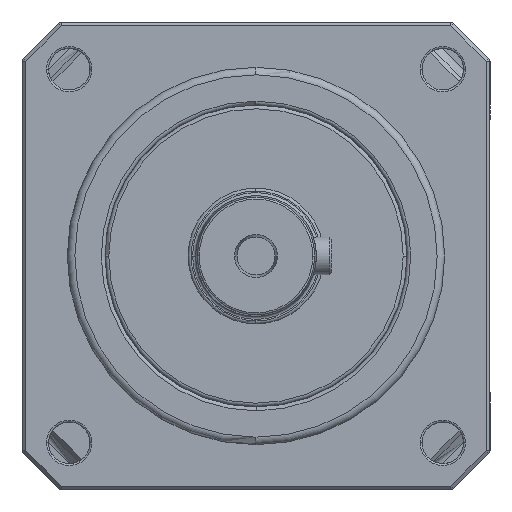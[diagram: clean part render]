
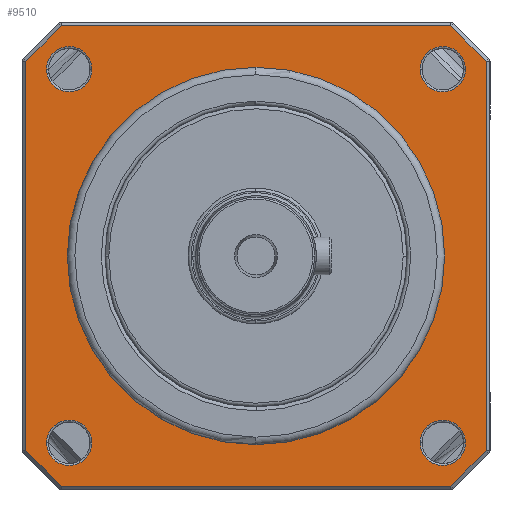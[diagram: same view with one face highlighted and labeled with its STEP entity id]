
A CAD part, left-side view. The second image highlights one B-rep face of the part: STEP entity #9510.
In plain terms, the highlighted planar face has unit normal (-1, 0, 0).
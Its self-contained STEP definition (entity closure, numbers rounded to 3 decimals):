
#7279=DIRECTION('',(0.,-0.707,-0.707));
#7280=VECTOR('',#7279,6.657);
#7281=CARTESIAN_POINT('',(-8.,-25.793,30.5));
#7282=LINE('',#7281,#7280);
#7283=DIRECTION('',(0.,0.,-1.));
#7284=VECTOR('',#7283,51.586);
#7285=CARTESIAN_POINT('',(-8.,-30.5,25.793));
#7286=LINE('',#7285,#7284);
#7287=DIRECTION('',(0.,0.707,-0.707));
#7288=VECTOR('',#7287,6.657);
#7289=CARTESIAN_POINT('',(-8.,-30.5,-25.793));
#7290=LINE('',#7289,#7288);
#7291=DIRECTION('',(0.,1.,0.));
#7292=VECTOR('',#7291,51.586);
#7293=CARTESIAN_POINT('',(-8.,-25.793,-30.5));
#7294=LINE('',#7293,#7292);
#7295=DIRECTION('',(0.,0.707,0.707));
#7296=VECTOR('',#7295,6.657);
#7297=CARTESIAN_POINT('',(-8.,25.793,-30.5));
#7298=LINE('',#7297,#7296);
#7299=DIRECTION('',(0.,0.,1.));
#7300=VECTOR('',#7299,51.586);
#7301=CARTESIAN_POINT('',(-8.,30.5,-25.793));
#7302=LINE('',#7301,#7300);
#7303=DIRECTION('',(0.,-0.707,0.707));
#7304=VECTOR('',#7303,6.657);
#7305=CARTESIAN_POINT('',(-8.,30.5,25.793));
#7306=LINE('',#7305,#7304);
#7307=DIRECTION('',(0.,-1.,0.));
#7308=VECTOR('',#7307,51.586);
#7309=CARTESIAN_POINT('',(-8.,25.793,30.5));
#7310=LINE('',#7309,#7308);
#7311=CARTESIAN_POINT('',(-8.,0.,0.));
#7312=DIRECTION('',(-1.,0.,0.));
#7313=DIRECTION('',(0.,0.,1.));
#7314=AXIS2_PLACEMENT_3D('',#7311,#7312,#7313);
#7316=CARTESIAN_POINT('',(-8.,0.,0.));
#7317=DIRECTION('',(-1.,0.,0.));
#7318=DIRECTION('',(0.,0.,-1.));
#7319=AXIS2_PLACEMENT_3D('',#7316,#7317,#7318);
#7321=CARTESIAN_POINT('',(-8.,24.749,-24.749));
#7322=DIRECTION('',(-1.,0.,0.));
#7323=DIRECTION('',(0.,-1.,0.));
#7324=AXIS2_PLACEMENT_3D('',#7321,#7322,#7323);
#7326=CARTESIAN_POINT('',(-8.,24.749,-24.749));
#7327=DIRECTION('',(-1.,0.,0.));
#7328=DIRECTION('',(0.,-0.996,0.085));
#7329=AXIS2_PLACEMENT_3D('',#7326,#7327,#7328);
#7331=CARTESIAN_POINT('',(-8.,24.749,-24.749));
#7332=DIRECTION('',(-1.,0.,0.));
#7333=DIRECTION('',(0.,1.,0.));
#7334=AXIS2_PLACEMENT_3D('',#7331,#7332,#7333);
#7336=CARTESIAN_POINT('',(-8.,24.749,-24.749));
#7337=DIRECTION('',(-1.,0.,0.));
#7338=DIRECTION('',(0.,0.996,-0.085));
#7339=AXIS2_PLACEMENT_3D('',#7336,#7337,#7338);
#7341=CARTESIAN_POINT('',(-8.,24.749,24.749));
#7342=DIRECTION('',(-1.,0.,0.));
#7343=DIRECTION('',(0.,1.,0.));
#7344=AXIS2_PLACEMENT_3D('',#7341,#7342,#7343);
#7346=CARTESIAN_POINT('',(-8.,24.749,24.749));
#7347=DIRECTION('',(-1.,0.,0.));
#7348=DIRECTION('',(0.,0.996,-0.085));
#7349=AXIS2_PLACEMENT_3D('',#7346,#7347,#7348);
#7351=CARTESIAN_POINT('',(-8.,24.749,24.749));
#7352=DIRECTION('',(-1.,0.,0.));
#7353=DIRECTION('',(0.,-1.,0.));
#7354=AXIS2_PLACEMENT_3D('',#7351,#7352,#7353);
#7356=CARTESIAN_POINT('',(-8.,24.749,24.749));
#7357=DIRECTION('',(-1.,0.,0.));
#7358=DIRECTION('',(0.,-0.996,0.085));
#7359=AXIS2_PLACEMENT_3D('',#7356,#7357,#7358);
#7361=CARTESIAN_POINT('',(-8.,-24.749,24.749));
#7362=DIRECTION('',(-1.,0.,0.));
#7363=DIRECTION('',(0.,1.,0.));
#7364=AXIS2_PLACEMENT_3D('',#7361,#7362,#7363);
#7366=CARTESIAN_POINT('',(-8.,-24.749,24.749));
#7367=DIRECTION('',(-1.,0.,0.));
#7368=DIRECTION('',(0.,0.996,-0.085));
#7369=AXIS2_PLACEMENT_3D('',#7366,#7367,#7368);
#7371=CARTESIAN_POINT('',(-8.,-24.749,24.749));
#7372=DIRECTION('',(-1.,0.,0.));
#7373=DIRECTION('',(0.,-1.,0.));
#7374=AXIS2_PLACEMENT_3D('',#7371,#7372,#7373);
#7376=CARTESIAN_POINT('',(-8.,-24.749,24.749));
#7377=DIRECTION('',(-1.,0.,0.));
#7378=DIRECTION('',(0.,-0.996,0.085));
#7379=AXIS2_PLACEMENT_3D('',#7376,#7377,#7378);
#7381=CARTESIAN_POINT('',(-8.,-24.749,-24.749));
#7382=DIRECTION('',(-1.,0.,0.));
#7383=DIRECTION('',(0.,1.,0.));
#7384=AXIS2_PLACEMENT_3D('',#7381,#7382,#7383);
#7386=CARTESIAN_POINT('',(-8.,-24.749,-24.749));
#7387=DIRECTION('',(-1.,0.,0.));
#7388=DIRECTION('',(0.,0.996,-0.085));
#7389=AXIS2_PLACEMENT_3D('',#7386,#7387,#7388);
#7391=CARTESIAN_POINT('',(-8.,-24.749,-24.749));
#7392=DIRECTION('',(-1.,0.,0.));
#7393=DIRECTION('',(0.,-1.,0.));
#7394=AXIS2_PLACEMENT_3D('',#7391,#7392,#7393);
#7396=CARTESIAN_POINT('',(-8.,-24.749,-24.749));
#7397=DIRECTION('',(-1.,0.,0.));
#7398=DIRECTION('',(0.,-0.996,0.085));
#7399=AXIS2_PLACEMENT_3D('',#7396,#7397,#7398);
#8195=CARTESIAN_POINT('',(-8.,0.,25.));
#8196=VERTEX_POINT('',#8195);
#8197=CARTESIAN_POINT('',(-8.,0.,-25.));
#8198=VERTEX_POINT('',#8197);
#8199=CARTESIAN_POINT('',(-8.,-25.793,30.5));
#8200=CARTESIAN_POINT('',(-8.,-30.5,25.793));
#8201=VERTEX_POINT('',#8199);
#8202=VERTEX_POINT('',#8200);
#8203=CARTESIAN_POINT('',(-8.,-30.5,-25.793));
#8204=VERTEX_POINT('',#8203);
#8205=CARTESIAN_POINT('',(-8.,-25.793,-30.5));
#8206=VERTEX_POINT('',#8205);
#8207=CARTESIAN_POINT('',(-8.,25.793,-30.5));
#8208=VERTEX_POINT('',#8207);
#8209=CARTESIAN_POINT('',(-8.,30.5,-25.793));
#8210=VERTEX_POINT('',#8209);
#8211=CARTESIAN_POINT('',(-8.,30.5,25.793));
#8212=VERTEX_POINT('',#8211);
#8213=CARTESIAN_POINT('',(-8.,25.793,30.5));
#8214=VERTEX_POINT('',#8213);
#8215=CARTESIAN_POINT('',(-8.,21.76,-24.494));
#8216=CARTESIAN_POINT('',(-8.,27.749,-24.749));
#8217=VERTEX_POINT('',#8215);
#8218=VERTEX_POINT('',#8216);
#8219=CARTESIAN_POINT('',(-8.,21.749,-24.749));
#8220=VERTEX_POINT('',#8219);
#8221=CARTESIAN_POINT('',(-8.,27.738,-25.003));
#8222=VERTEX_POINT('',#8221);
#8223=CARTESIAN_POINT('',(-8.,27.738,24.494));
#8224=CARTESIAN_POINT('',(-8.,21.749,24.749));
#8225=VERTEX_POINT('',#8223);
#8226=VERTEX_POINT('',#8224);
#8227=CARTESIAN_POINT('',(-8.,27.749,24.749));
#8228=VERTEX_POINT('',#8227);
#8229=CARTESIAN_POINT('',(-8.,21.76,25.003));
#8230=VERTEX_POINT('',#8229);
#8231=CARTESIAN_POINT('',(-8.,-21.76,24.494));
#8232=CARTESIAN_POINT('',(-8.,-27.749,24.749));
#8233=VERTEX_POINT('',#8231);
#8234=VERTEX_POINT('',#8232);
#8235=CARTESIAN_POINT('',(-8.,-21.749,24.749));
#8236=VERTEX_POINT('',#8235);
#8237=CARTESIAN_POINT('',(-8.,-27.738,25.003));
#8238=VERTEX_POINT('',#8237);
#8239=CARTESIAN_POINT('',(-8.,-21.76,-25.003));
#8240=CARTESIAN_POINT('',(-8.,-27.749,-24.749));
#8241=VERTEX_POINT('',#8239);
#8242=VERTEX_POINT('',#8240);
#8243=CARTESIAN_POINT('',(-8.,-21.749,-24.749));
#8244=VERTEX_POINT('',#8243);
#8245=CARTESIAN_POINT('',(-8.,-27.738,-24.494));
#8246=VERTEX_POINT('',#8245);
#9442=CARTESIAN_POINT('',(-8.,0.,0.));
#9443=DIRECTION('',(1.,0.,0.));
#9444=DIRECTION('',(0.,1.,0.));
#9445=AXIS2_PLACEMENT_3D('',#9442,#9443,#9444);
#9446=PLANE('',#9445);
#9448=ORIENTED_EDGE('',*,*,#9447,.T.);
#9450=ORIENTED_EDGE('',*,*,#9449,.T.);
#9452=ORIENTED_EDGE('',*,*,#9451,.T.);
#9454=ORIENTED_EDGE('',*,*,#9453,.T.);
#9456=ORIENTED_EDGE('',*,*,#9455,.T.);
#9458=ORIENTED_EDGE('',*,*,#9457,.T.);
#9459=ORIENTED_EDGE('',*,*,#9432,.T.);
#9461=ORIENTED_EDGE('',*,*,#9460,.T.);
#9462=EDGE_LOOP('',(#9448,#9450,#9452,#9454,#9456,#9458,#9459,#9461));
#9463=FACE_OUTER_BOUND('',#9462,.F.);
#9465=ORIENTED_EDGE('',*,*,#9464,.T.);
#9467=ORIENTED_EDGE('',*,*,#9466,.T.);
#9468=EDGE_LOOP('',(#9465,#9467));
#9469=FACE_BOUND('',#9468,.F.);
#9471=ORIENTED_EDGE('',*,*,#9470,.T.);
#9473=ORIENTED_EDGE('',*,*,#9472,.T.);
#9475=ORIENTED_EDGE('',*,*,#9474,.T.);
#9477=ORIENTED_EDGE('',*,*,#9476,.T.);
#9478=EDGE_LOOP('',(#9471,#9473,#9475,#9477));
#9479=FACE_BOUND('',#9478,.F.);
#9481=ORIENTED_EDGE('',*,*,#9480,.T.);
#9483=ORIENTED_EDGE('',*,*,#9482,.T.);
#9485=ORIENTED_EDGE('',*,*,#9484,.T.);
#9487=ORIENTED_EDGE('',*,*,#9486,.T.);
#9488=EDGE_LOOP('',(#9481,#9483,#9485,#9487));
#9489=FACE_BOUND('',#9488,.F.);
#9491=ORIENTED_EDGE('',*,*,#9490,.T.);
#9493=ORIENTED_EDGE('',*,*,#9492,.T.);
#9495=ORIENTED_EDGE('',*,*,#9494,.T.);
#9497=ORIENTED_EDGE('',*,*,#9496,.T.);
#9498=EDGE_LOOP('',(#9491,#9493,#9495,#9497));
#9499=FACE_BOUND('',#9498,.F.);
#9501=ORIENTED_EDGE('',*,*,#9500,.T.);
#9503=ORIENTED_EDGE('',*,*,#9502,.T.);
#9505=ORIENTED_EDGE('',*,*,#9504,.T.);
#9507=ORIENTED_EDGE('',*,*,#9506,.T.);
#9508=EDGE_LOOP('',(#9501,#9503,#9505,#9507));
#9509=FACE_BOUND('',#9508,.F.);
#7315=CIRCLE('',#7314,25.);
#7320=CIRCLE('',#7319,25.);
#7325=CIRCLE('',#7324,3.);
#7330=CIRCLE('',#7329,3.);
#7335=CIRCLE('',#7334,3.);
#7340=CIRCLE('',#7339,3.);
#7345=CIRCLE('',#7344,3.);
#7350=CIRCLE('',#7349,3.);
#7355=CIRCLE('',#7354,3.);
#7360=CIRCLE('',#7359,3.);
#7365=CIRCLE('',#7364,3.);
#7370=CIRCLE('',#7369,3.);
#7375=CIRCLE('',#7374,3.);
#7380=CIRCLE('',#7379,3.);
#7385=CIRCLE('',#7384,3.);
#7390=CIRCLE('',#7389,3.);
#7395=CIRCLE('',#7394,3.);
#7400=CIRCLE('',#7399,3.);
#9432=EDGE_CURVE('',#8212,#8214,#7306,.T.);
#9447=EDGE_CURVE('',#8201,#8202,#7282,.T.);
#9449=EDGE_CURVE('',#8202,#8204,#7286,.T.);
#9451=EDGE_CURVE('',#8204,#8206,#7290,.T.);
#9453=EDGE_CURVE('',#8206,#8208,#7294,.T.);
#9455=EDGE_CURVE('',#8208,#8210,#7298,.T.);
#9457=EDGE_CURVE('',#8210,#8212,#7302,.T.);
#9460=EDGE_CURVE('',#8214,#8201,#7310,.T.);
#9464=EDGE_CURVE('',#8196,#8198,#7315,.T.);
#9466=EDGE_CURVE('',#8198,#8196,#7320,.T.);
#9470=EDGE_CURVE('',#8220,#8217,#7325,.T.);
#9472=EDGE_CURVE('',#8217,#8218,#7330,.T.);
#9474=EDGE_CURVE('',#8218,#8222,#7335,.T.);
#9476=EDGE_CURVE('',#8222,#8220,#7340,.T.);
#9480=EDGE_CURVE('',#8228,#8225,#7345,.T.);
#9482=EDGE_CURVE('',#8225,#8226,#7350,.T.);
#9484=EDGE_CURVE('',#8226,#8230,#7355,.T.);
#9486=EDGE_CURVE('',#8230,#8228,#7360,.T.);
#9490=EDGE_CURVE('',#8236,#8233,#7365,.T.);
#9492=EDGE_CURVE('',#8233,#8234,#7370,.T.);
#9494=EDGE_CURVE('',#8234,#8238,#7375,.T.);
#9496=EDGE_CURVE('',#8238,#8236,#7380,.T.);
#9500=EDGE_CURVE('',#8244,#8241,#7385,.T.);
#9502=EDGE_CURVE('',#8241,#8242,#7390,.T.);
#9504=EDGE_CURVE('',#8242,#8246,#7395,.T.);
#9506=EDGE_CURVE('',#8246,#8244,#7400,.T.);
#9510=ADVANCED_FACE('',(#9463,#9469,#9479,#9489,#9499,#9509),#9446,.F.);
